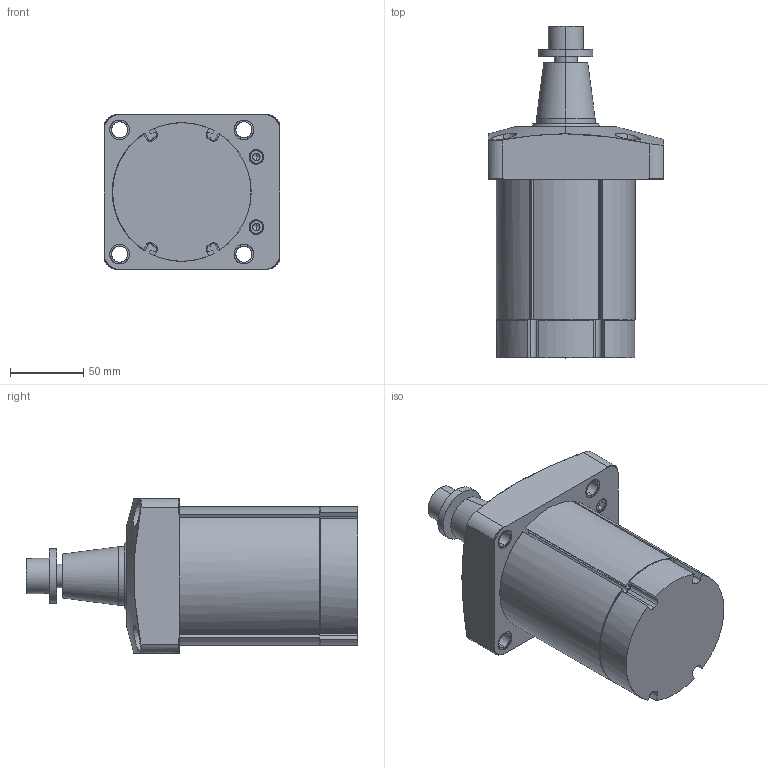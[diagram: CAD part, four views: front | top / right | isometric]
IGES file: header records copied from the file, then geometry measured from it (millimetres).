
Start section: Comment
Global section: file name: jsp63-28.igs; native system:  By Spatial Corp.; preprocessor: XPlus GENERIC/IGES 3.0; author: Author; organization: Title; date: 20080526.131500; units: millimetre
Bounding box: 120 x 227 x 106 mm (x, y, z)
Surface area: 163906.1 mm2 (no closed solid volume)
Topology: 0 solids, 0 shells, 309 faces, 1482 edges, 1468 vertices
Faces by surface type: bspline 309
